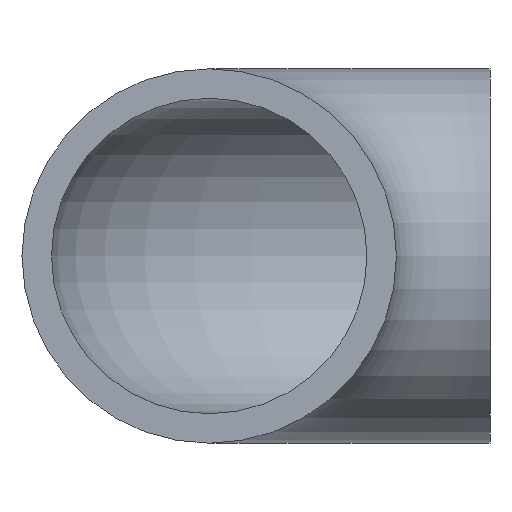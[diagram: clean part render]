
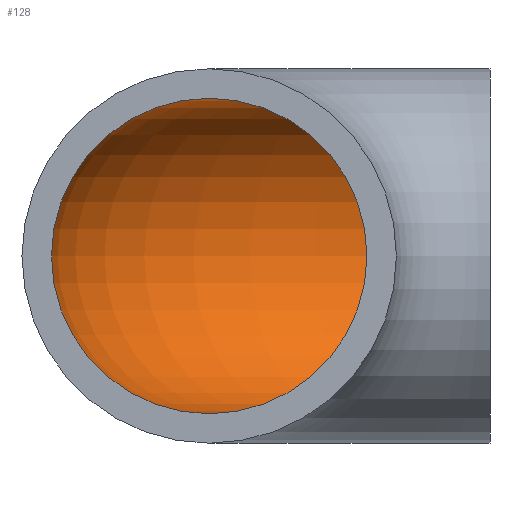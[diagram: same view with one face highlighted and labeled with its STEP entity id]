
A CAD part, front view. The second image highlights one B-rep face of the part: STEP entity #128.
In plain terms, the highlighted toroidal (fillet/blend) face has major radius 30 mm and minor radius 16.85 mm.
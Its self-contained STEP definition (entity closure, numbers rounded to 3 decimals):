
#12=TOROIDAL_SURFACE($,#146,30.,16.85);
#23=FACE_BOUND($,#50,.T.);
#36=FACE_OUTER_BOUND($,#49,.T.);
#49=EDGE_LOOP($,(#98));
#50=EDGE_LOOP($,(#99));
#65=CIRCLE($,#147,16.85);
#66=CIRCLE($,#148,16.85);
#75=VERTEX_POINT($,#257);
#76=VERTEX_POINT($,#259);
#85=EDGE_CURVE($,#75,#75,#65,.T.);
#86=EDGE_CURVE($,#76,#76,#66,.T.);
#98=ORIENTED_EDGE($,*,*,#85,.F.);
#99=ORIENTED_EDGE($,*,*,#86,.T.);
#128=ADVANCED_FACE($,(#36,#23),#12,.F.);
#146=AXIS2_PLACEMENT_3D($,#256,#177,#178);
#147=AXIS2_PLACEMENT_3D($,#258,#179,#180);
#148=AXIS2_PLACEMENT_3D($,#260,#181,#182);
#177=DIRECTION('center_axis',(0.,0.,-1.));
#178=DIRECTION('ref_axis',(-1.,0.,0.));
#179=DIRECTION('center_axis',(-1.,0.,0.));
#180=DIRECTION('ref_axis',(0.,1.,0.));
#181=DIRECTION('center_axis',(0.,-1.,0.));
#182=DIRECTION('ref_axis',(1.,0.,0.));
#256=CARTESIAN_POINT('Origin',(30.,120.,0.));
#257=CARTESIAN_POINT('',(30.,166.85,0.));
#258=CARTESIAN_POINT('Origin',(30.,150.,0.));
#259=CARTESIAN_POINT('',(-16.85,120.,0.));
#260=CARTESIAN_POINT('Origin',(0.,120.,0.));
